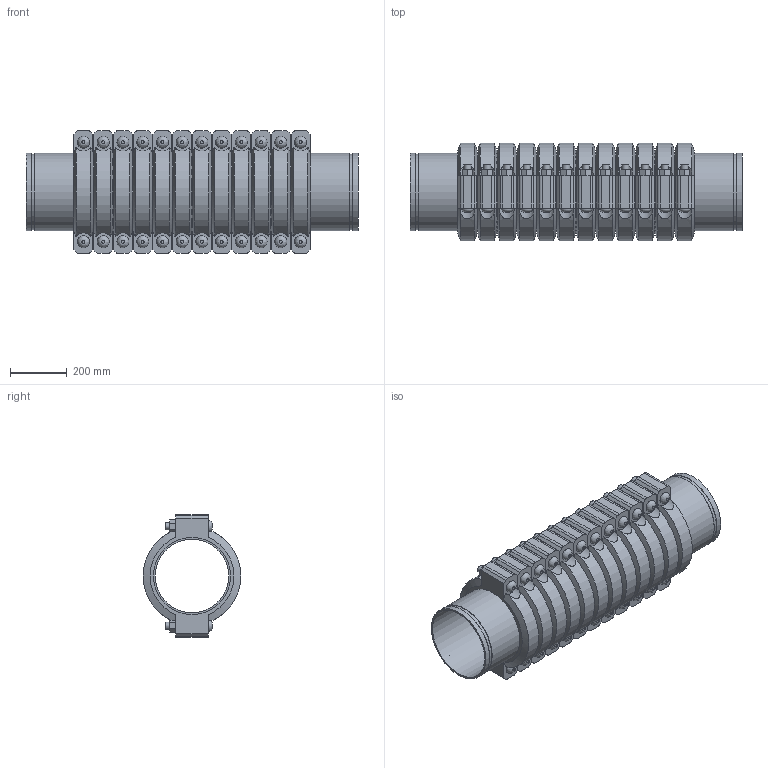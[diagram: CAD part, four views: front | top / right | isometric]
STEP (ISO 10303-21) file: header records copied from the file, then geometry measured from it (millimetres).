
FILE_DESCRIPTION(/* description */ ('VIC SS EXPANSION JOINT 12 COUPLINGS COMPRESSED STYLE 155P (OGS) (POTABLE WATER) ','CAx-IF Rec.Pracs.---Representation and Presentation of Product Manufacturing Information (PMI)---4.0---2014-10-13'),/* implementation_level */ '2;1');
FILE_NAME(/* name */ 'C:\Users\kkamble\AppData\Roaming\Autodesk\ApplicationPlugins\Victaulic.Temp\A528\Victaulic_SS_Expansion Joint_Compressed_12 Couplings_Style 155P (OGS)-Potable Water_12 Coup_Comp_10 (250).stp',/* time_stamp */ '2021-07-16T17:08:32+06:00',/* author */ ('kkamble'),/* organization */ ('Victaulic'),/* preprocessor_version */ 'ST-DEVELOPER v17.2',/* originating_system */ 'Autodesk Inventor 2019',/* authorisation */ '');
FILE_SCHEMA (('AP242_MANAGED_MODEL_BASED_3D_ENGINEERING_MIM_LF { 1 0 10303 442 1 1 4 }'));
Length unit declared in the file: inch
Products named in the file (4): 155P-10.0; Nipple-10.0; Nipple-10.0_1; 077-10.0
Assembly tree (25 placements, depth 2):
  155P-10.0
    Nipple-10.0  x2
    Nipple-10.0_1  x11
    077-10.0  x12
Bounding box: 1174.75 x 344.9 x 435.1 mm (x, y, z)
Volume: 40641811.9 mm3; surface area: 5481046.6 mm2
Topology: 25 solids, 49 shells, 840 faces, 2058 edges, 1440 vertices
Faces by surface type: plane 486, cylinder 282, cone 48, bspline 24
Full cylindrical faces by diameter (mm): 25.4 x48, 27.432 x24, 260.35 x13, 268.275 x26, 273.05 x51
Entity records: 3073 total; most frequent: CARTESIAN_POINT 675, DIRECTION 487, ORIENTED_EDGE 398, AXIS2_PLACEMENT_3D 200, EDGE_CURVE 199, VERTEX_POINT 142, EDGE_LOOP 105, CIRCLE 92
